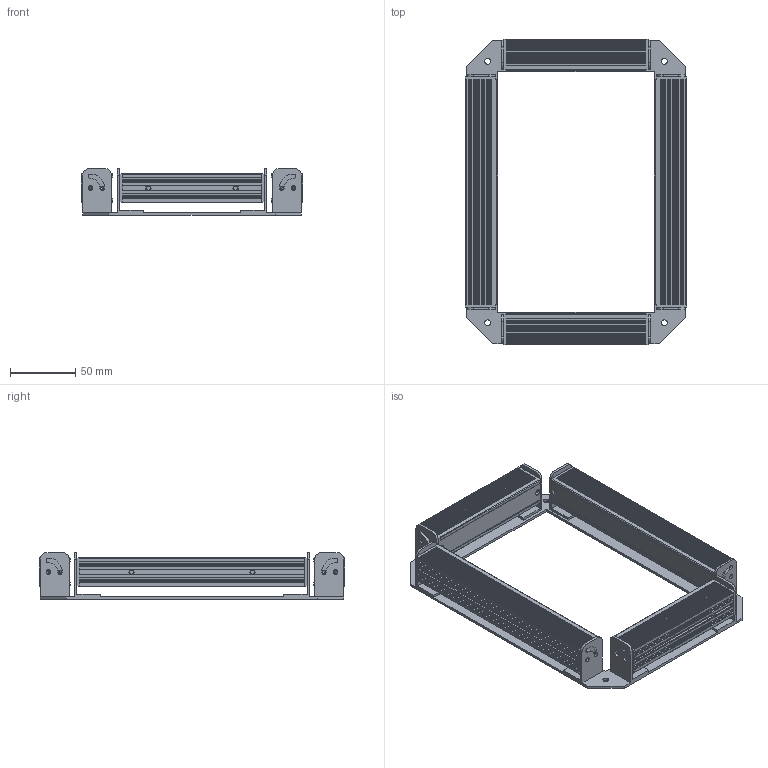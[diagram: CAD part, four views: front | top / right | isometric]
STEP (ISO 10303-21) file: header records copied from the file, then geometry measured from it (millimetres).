
FILE_DESCRIPTION((''),'2;1');
FILE_NAME('MSL-102-102_ASM','2020-03-26T',('ASUS'),(''),'PRO/ENGINEER BY PARAMETRIC TECHNOLOGY CORPORATION, 2008380','PRO/ENGINEER BY PARAMETRIC TECHNOLOGY CORPORATION, 2008380','');
FILE_SCHEMA(('CONFIG_CONTROL_DESIGN'));
Length unit declared in the file: millimetre
Products named in the file (4): PRT0002; PRT0005; DSL-177-22; MSL-102-102_ASM
Assembly tree (5 placements, depth 2):
  MSL-102-102_ASM
    PRT0002
    PRT0005  x2
    DSL-177-22  x2
Bounding box: 170.04 x 235.04 x 36 mm (x, y, z)
Volume: 314957.6 mm3; surface area: 153780.9 mm2
Topology: 5 solids, 21 shells, 1238 faces, 3324 edges, 2200 vertices
Faces by surface type: plane 742, cylinder 416, cone 80
Entity records: 21972 total; most frequent: CARTESIAN_POINT 4116, DIRECTION 3704, ORIENTED_EDGE 3656, EDGE_CURVE 1844, VECTOR 1276, LINE 1276, VERTEX_POINT 1232, AXIS2_PLACEMENT_3D 1214
